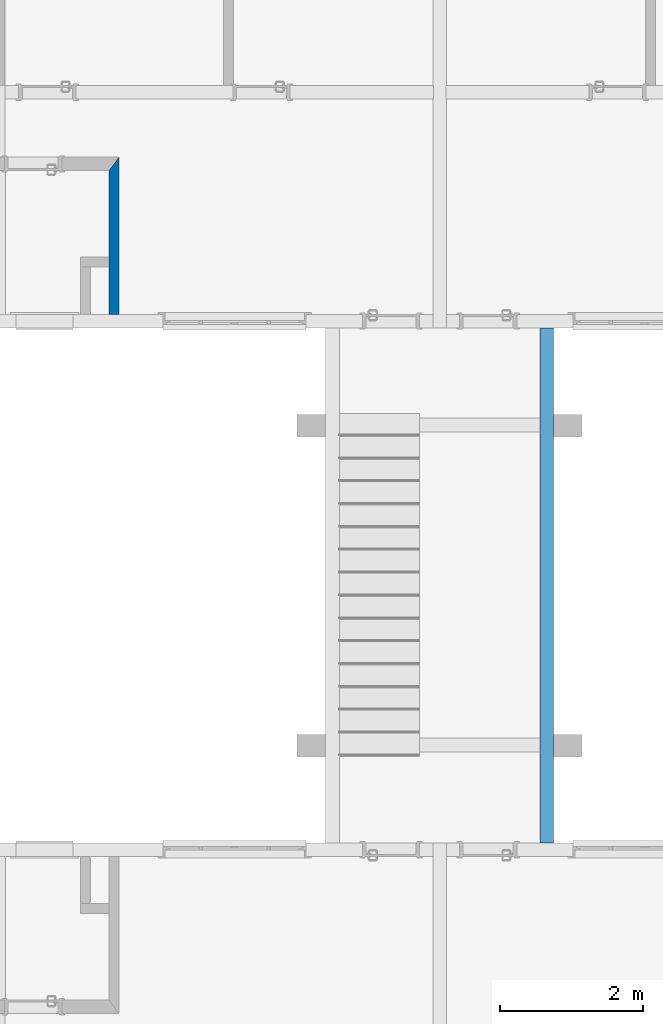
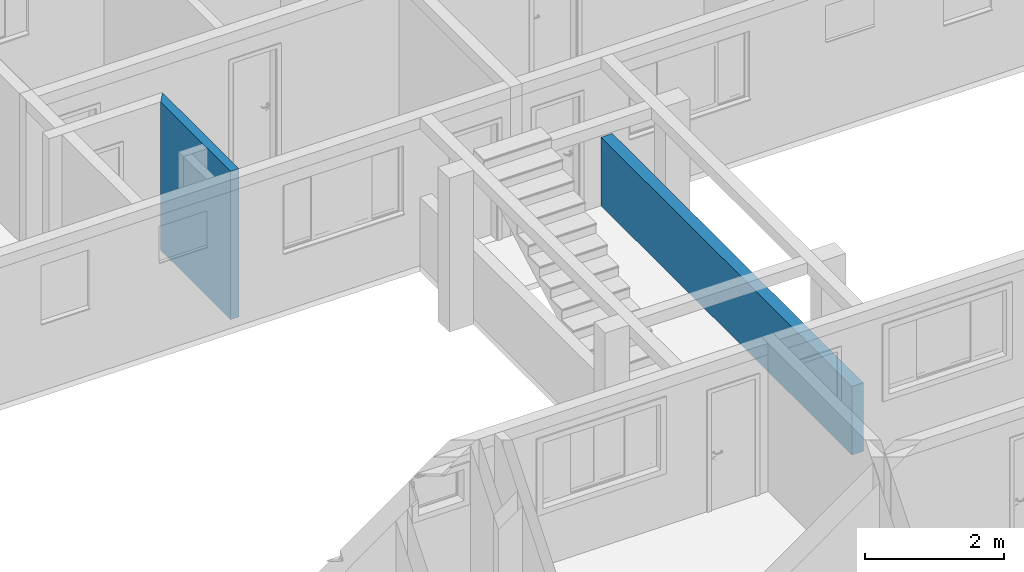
# One storey, part 26 of 43: 2 walls.
"""IFC2X3 building model written with IfcOpenShell, lengths in millimetres."""

from ifc_helpers import new_model, entity, si_unit, converted_unit, derived_unit, money_unit, direction, frame, origin_with_axes, place, context, subcontext, project, spatial, polyline, outline, extrude, material, layer, layer_set, layer_usage, type_object, element, save


model = new_model("IFC2X3")

# Units and contexts
model_context = context("Model", 3, precision=0.01, world=origin_with_axes(), true_north=direction((0.0, 1.0)))
body_context = subcontext(model_context, "Body", "Model", "MODEL_VIEW")
ifc_project = project(units=[si_unit("LENGTHUNIT", "METRE", prefix="MILLI"), si_unit("AREAUNIT", "SQUARE_METRE"), si_unit("VOLUMEUNIT", "CUBIC_METRE"), converted_unit("PLANEANGLEUNIT", "DEGREE", entity("IfcPlaneAngleMeasure", 0.0174532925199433), si_unit("PLANEANGLEUNIT", "RADIAN"), dimensions=[0, 0, 0, 0, 0, 0, 0]), money_unit("USD"), converted_unit("TIMEUNIT", "Year", entity("IfcTimeMeasure", 31557600.0), si_unit("TIMEUNIT", "SECOND"), dimensions=[0, 0, 1, 0, 0, 0, 0]), si_unit("MASSUNIT", "GRAM", prefix="KILO"), si_unit("THERMODYNAMICTEMPERATUREUNIT", "DEGREE_CELSIUS"), si_unit("LUMINOUSINTENSITYUNIT", "LUMEN"), si_unit("ENERGYUNIT", "JOULE", prefix="MEGA"), derived_unit("THERMALCONDUCTANCEUNIT", [(si_unit("POWERUNIT", "WATT"), 1), (si_unit("LENGTHUNIT", "METRE"), -1), (si_unit("THERMODYNAMICTEMPERATUREUNIT", "KELVIN"), -1)]), derived_unit("SPECIFICHEATCAPACITYUNIT", [(si_unit("ENERGYUNIT", "JOULE"), 1), (si_unit("MASSUNIT", "GRAM", prefix="KILO"), -1), (si_unit("THERMODYNAMICTEMPERATUREUNIT", "KELVIN"), -1)]), derived_unit("MASSDENSITYUNIT", [(si_unit("MASSUNIT", "GRAM", prefix="KILO"), 1), (si_unit("VOLUMEUNIT", "CUBIC_METRE"), -1)])], contexts=[model_context])

# Site, building, storey
site_placement = place(None, origin_with_axes())
site = spatial("IfcSite", under=ifc_project, at=site_placement, Name="Local", CompositionType="ELEMENT")
building_placement = place(site_placement, origin_with_axes())
building = spatial("IfcBuilding", under=site, at=building_placement, Name="Construção", CompositionType="ELEMENT")
storey_placement = place(building_placement, origin_with_axes())
storey = spatial("IfcBuildingStorey", under=building, at=storey_placement, Name="Pavimento Tipo", CompositionType="ELEMENT", Elevation=0.0)

# Walls
ifc_material_1 = material(Name="Concreto - Estrutural")
ifc_layer_1 = layer(ifc_material_1, 190.0, ventilated="UNKNOWN")
ifc_layer_set_1 = layer_set([ifc_layer_1], Name="Concreto - Estrutural 190")
ifc_layer_usage_1 = layer_usage(ifc_layer_set_1, "AXIS2", "NEGATIVE", 190.0)
wall_type_1 = type_object("IfcWallType", Name="Concreto - Estrutural 190", PredefinedType="NOTDEFINED")
wall_1_placement = place(storey_placement, frame((65392.434598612, -1567.538479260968, 0.0), z_axis=(0.0, 0.0, 1.0), x_axis=(0.0, 1.0, 0.0)))
element("IfcWallStandardCase", 1, at=wall_1_placement, inside=storey, type_object=wall_type_1, material=ifc_layer_usage_1, Name="NúcleoParede-003", context=body_context, shape_type="SweptSolid", body=[
    extrude(outline(polyline([(0.0, 0.0), (7210.0, 0.0), (7210.0, 189.9999999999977), (0.0, 189.9999999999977), (0.0, 0.0)])), origin_with_axes(), (0.0, 0.0, 1.0), 1200.0),
])
ifc_material_2 = material(Name="Concreto")
ifc_layer_2 = layer(ifc_material_2, 140.0, ventilated="UNKNOWN")
ifc_layer_set_2 = layer_set([ifc_layer_2], Name="Concreto 140")
ifc_layer_usage_2 = layer_usage(ifc_layer_set_2, "AXIS2", "POSITIVE", 0.0)
wall_type_2 = type_object("IfcWallType", Name="Concreto 140", PredefinedType="NOTDEFINED")
wall_2_placement = place(storey_placement, frame((59307.434598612, 5832.461520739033, 0.0), z_axis=(0.0, 0.0, 1.0), x_axis=(0.0, 1.0, 0.0)))
element("IfcWallStandardCase", 2, at=wall_2_placement, inside=storey, type_object=wall_type_2, material=ifc_layer_usage_2, Name="Apartamento 2 - Parede-010", context=body_context, shape_type="SweptSolid", body=[
    extrude(outline(polyline([(0.0, 0.0), (2200.0, 0.0), (2010.0, 140.0000000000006), (0.0, 140.0000000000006), (0.0, 0.0)])), origin_with_axes(), (0.0, 0.0, 1.0), 2600.0),
])

save(model, "model.ifc")
